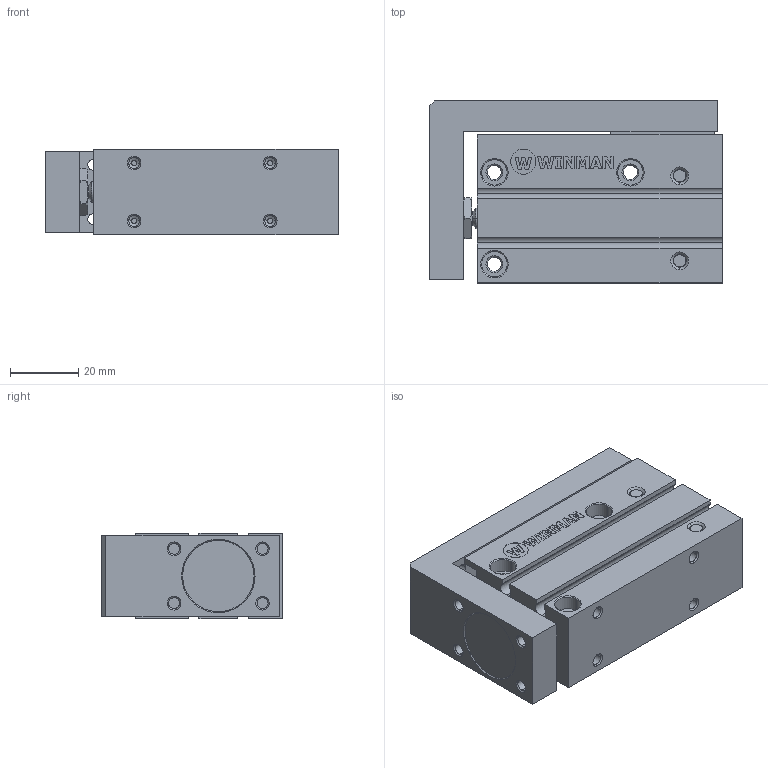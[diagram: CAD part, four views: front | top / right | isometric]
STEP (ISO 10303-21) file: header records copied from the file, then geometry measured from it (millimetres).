
FILE_DESCRIPTION (( 'STEP AP214' ), '1' );
FILE_NAME ('WLH-016-0030 (MDMY).STEP', '2016-08-02T11:12:57', ( 'Hidtek' ), ( '' ), 'SwSTEP 2.0', 'SolidWorks 2016', '' );
FILE_SCHEMA (( 'AUTOMOTIVE_DESIGN' ));
Length unit declared in the file: millimetre
Products named in the file (3): WLH-016-0030 (MDMY); WLH-016-0030_body-1^WLH-016-0030 (MDMY); WLH-016-0030_rod-1^WLH-016-0030 (MDMY)
Assembly tree (2 placements, depth 2):
  WLH-016-0030 (MDMY)
    WLH-016-0030_rod-1^WLH-016-0030 (MDMY)
    WLH-016-0030_body-1^WLH-016-0030 (MDMY)
Bounding box: 86 x 53.5 x 25 mm (x, y, z)
Volume: 88809.6 mm3; surface area: 34549.8 mm2
Topology: 2 solids, 2 shells, 445 faces, 1081 edges, 684 vertices
Faces by surface type: plane 193, cone 136, cylinder 108, bspline 8
Entity records: 14227 total; most frequent: CARTESIAN_POINT 2399, DIRECTION 2327, ORIENTED_EDGE 2146, EDGE_CURVE 1073, AXIS2_PLACEMENT_3D 836, VERTEX_POINT 684, LINE 655, VECTOR 655
